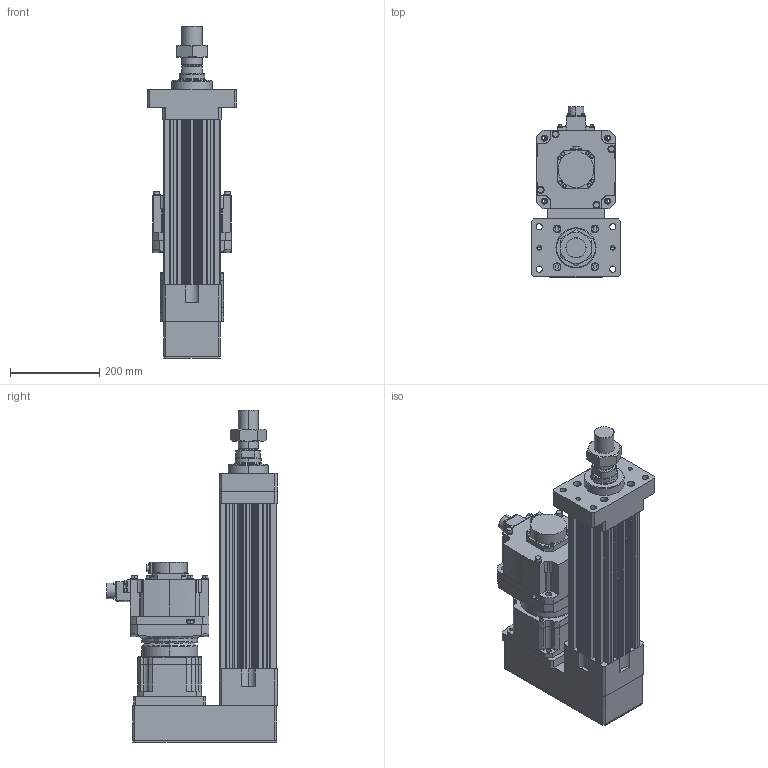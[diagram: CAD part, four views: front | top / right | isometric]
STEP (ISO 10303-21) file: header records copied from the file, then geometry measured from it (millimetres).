
FILE_DESCRIPTION (( 'STEP AP203' ), '1' );
FILE_NAME ('HES130FS(HS)-P150-W020G00-M-FMA.STEP', '2023-01-30T06:10:55', ( 'tms' ), ( '' ), 'SwSTEP 2.0', 'SolidWorks 2013', '' );
FILE_SCHEMA (( 'CONFIG_CONTROL_DESIGN' ));
Length unit declared in the file: millimetre
Products named in the file (9): HES130-P150-G142-FMA; AB1421; HG-SR202; HES130FS(HS)-P150-W020G00-M-FMA; M45X1.5P; AB142-003[HG-SR352]; HES130 ROD M ST150; P1301500001; P0403500801
Assembly tree (8 placements, depth 3):
  HES130FS(HS)-P150-W020G00-M-FMA
    HES130-P150-G142-FMA
    HES130 ROD M ST150
    M45X1.5P
    AB142-003[HG-SR352]
      AB1421
      P1301500001
      P0403500801
    HG-SR202
Bounding box: 200 x 381.85 x 744 mm (x, y, z)
Volume: 11682865.8 mm3; surface area: 1290595.5 mm2
Topology: 4 solids, 18 shells, 1401 faces, 3660 edges, 2370 vertices
Faces by surface type: cylinder 643, plane 530, cone 146, bspline 76, torus 6
Entity records: 52014 total; most frequent: CARTESIAN_POINT 16222, DIRECTION 7460, ORIENTED_EDGE 7222, EDGE_CURVE 3633, AXIS2_PLACEMENT_3D 2825, VERTEX_POINT 2370, LINE 1810, VECTOR 1810
